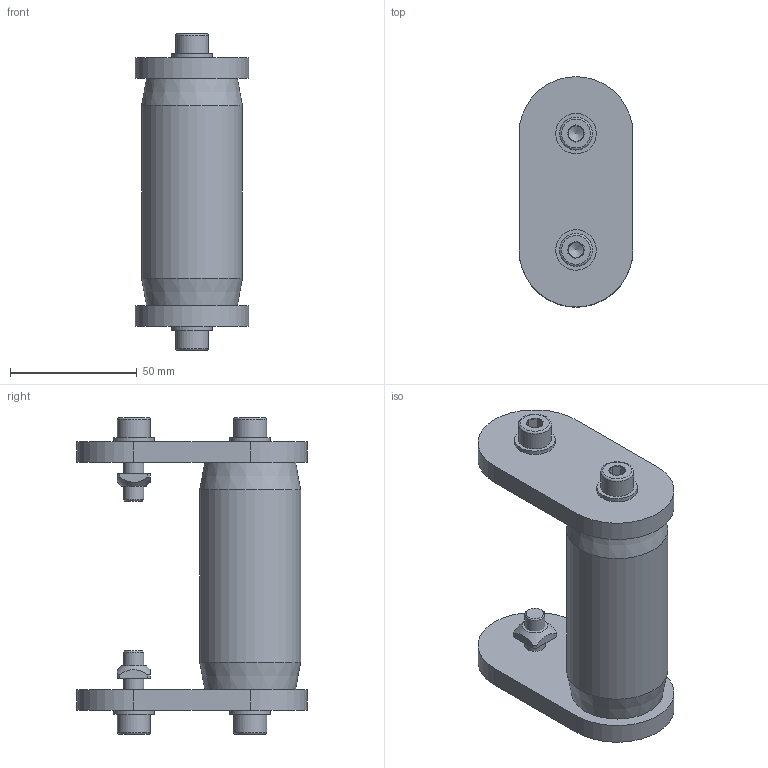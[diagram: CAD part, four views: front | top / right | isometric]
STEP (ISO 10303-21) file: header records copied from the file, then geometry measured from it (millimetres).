
FILE_DESCRIPTION (( 'STEP AP214' ), '1' );
FILE_NAME ('983-004-80.STEP', '2020-11-23T10:26:49', ( '' ), ( '' ), 'SwSTEP 2.0', 'SolidWorks 2020', '' );
FILE_SCHEMA (( 'AUTOMOTIVE_DESIGN' ));
Length unit declared in the file: millimetre
Products named in the file (10): 983-004-80; CHC THE_910-053H; CHC M8X20 + RP8; 982-009; CHC M8X25 + RP8; 982-010-80; RONDELLE_910-111; 983-003; 910-011; CHC THE_910-052H
Assembly tree (12 placements, depth 4):
  983-004-80
    983-003  x2
      982-009
      910-011
      CHC M8X25 + RP8
        CHC THE_910-053H
        RONDELLE_910-111
    982-010-80
    CHC M8X20 + RP8  x2
      CHC THE_910-052H
      RONDELLE_910-111
Bounding box: 45 x 91 x 125.2 mm (x, y, z)
Volume: 173994.9 mm3; surface area: 41536.3 mm2
Topology: 13 solids, 13 shells, 186 faces, 410 edges, 258 vertices
Faces by surface type: plane 94, cylinder 44, cone 40, torus 8
Full cylindrical faces by diameter (mm): 6 x4, 6.8 x3, 7.98 x4, 8 x4, 8.4 x4, 8.5 x4, 13 x4, 16 x4, 40 x1
Entity records: 2910 total; most frequent: CARTESIAN_POINT 548, DIRECTION 450, ORIENTED_EDGE 342, AXIS2_PLACEMENT_3D 185, EDGE_CURVE 171, EDGE_LOOP 134, VERTEX_POINT 123, FACE_OUTER_BOUND 111
